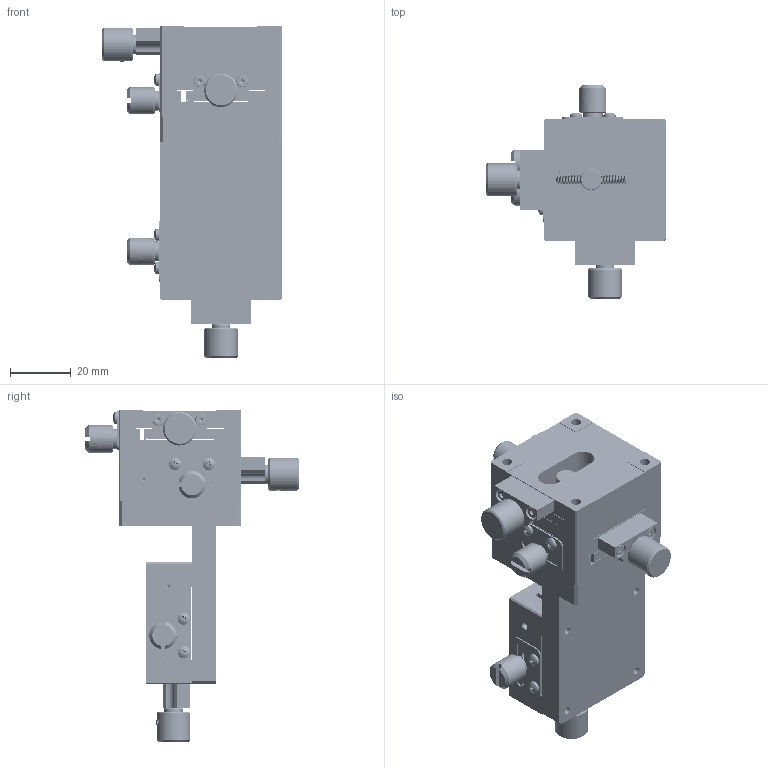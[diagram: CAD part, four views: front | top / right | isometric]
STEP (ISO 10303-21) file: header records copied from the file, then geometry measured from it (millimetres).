
FILE_DESCRIPTION (( 'STEP AP203' ), '1' );
FILE_NAME ('BFD40.STEP', '2024-07-31T03:53:38', ( 'Windows User' ), ( 'P R C' ), 'SwSTEP 2.0', 'SolidWorks 2024', '' );
FILE_SCHEMA (( 'CONFIG_CONTROL_DESIGN' ));
Length unit declared in the file: millimetre
Products named in the file (1): BFD40
Bounding box: 59 x 69.95 x 109 mm (x, y, z)
Volume: 99911.2 mm3; surface area: 59380.5 mm2
Topology: 53 solids, 53 shells, 2238 faces, 5790 edges, 3784 vertices
Faces by surface type: plane 1513, cylinder 294, bspline 261, cone 152, torus 12, sphere 6
Full cylindrical faces by diameter (mm): 1.6 x18, 2 x12, 2.05 x9, 2.4 x6, 2.5 x51, 2.7 x6, 2.9 x3, 3 x12, 3.4 x18, 3.8 x6, 4 x15, 4.1 x3, 4.3 x6, 4.5 x3, 4.6 x6, 4.7 x3, 5.5 x6, 6 x12, 6.094 x3, 6.5 x15, 6.9 x3, 7 x3, 9 x3, 11 x3
Entity records: 131732 total; most frequent: CARTESIAN_POINT 81799, ORIENTED_EDGE 10596, DIRECTION 8711, EDGE_CURVE 5298, VERTEX_POINT 3669, LINE 3147, VECTOR 3147, EDGE_LOOP 2923
